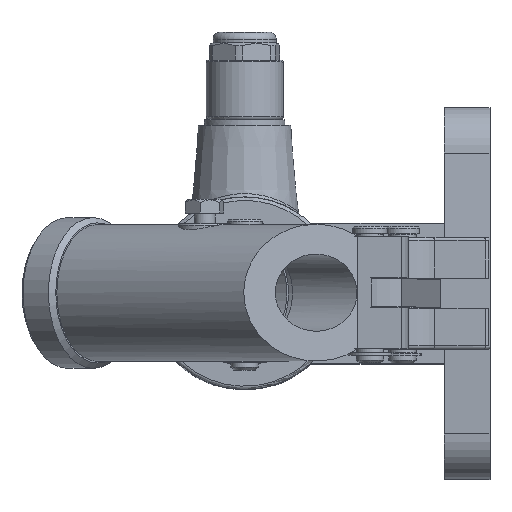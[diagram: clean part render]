
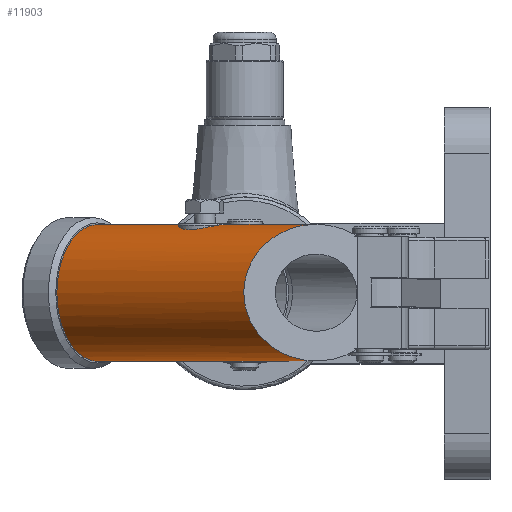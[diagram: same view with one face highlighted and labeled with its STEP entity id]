
A CAD part, top view. The second image highlights one B-rep face of the part: STEP entity #11903.
In plain terms, the highlighted cylindrical face has radius 19.5 mm (diameter 39 mm), a partial arc.
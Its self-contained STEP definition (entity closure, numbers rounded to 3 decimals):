
#26=ELLIPSE('',#12578,20.751,19.5);
#27=ELLIPSE('',#12589,20.751,19.5);
#28=ELLIPSE('',#12597,20.751,19.5);
#29=ELLIPSE('',#12599,22.517,19.5);
#30=ELLIPSE('',#12600,20.751,19.5);
#123=B_SPLINE_CURVE_WITH_KNOTS('',3,(#17699,#17700,#17701,#17702,#17703,
#17704),.UNSPECIFIED.,.F.,.F.,(4,1,1,4),(0.039,0.043,
0.045,0.047),.UNSPECIFIED.);
#124=B_SPLINE_CURVE_WITH_KNOTS('',3,(#17706,#17707,#17708,#17709,#17710),
 .UNSPECIFIED.,.F.,.F.,(4,1,4),(0.032,0.036,0.039),
 .UNSPECIFIED.);
#125=B_SPLINE_CURVE_WITH_KNOTS('',3,(#17712,#17713,#17714,#17715,#17716,
#17717,#17718),.UNSPECIFIED.,.F.,.F.,(4,1,1,1,4),(0.015,0.019,
0.024,0.028,0.032),.UNSPECIFIED.);
#126=B_SPLINE_CURVE_WITH_KNOTS('',3,(#17720,#17721,#17722,#17723,#17724),
 .UNSPECIFIED.,.F.,.F.,(4,1,4),(0.009,0.012,0.015),
 .UNSPECIFIED.);
#127=B_SPLINE_CURVE_WITH_KNOTS('',3,(#17726,#17727,#17728,#17729,#17730),
 .UNSPECIFIED.,.F.,.F.,(4,1,4),(0.,0.004,0.009),
 .UNSPECIFIED.);
#374=LINE('',#17623,#889);
#375=LINE('',#17625,#890);
#387=LINE('',#17659,#902);
#399=LINE('',#17692,#914);
#400=LINE('',#17696,#915);
#401=LINE('',#17731,#916);
#402=LINE('',#17735,#917);
#889=VECTOR('',#13910,1000.);
#890=VECTOR('',#13911,1000.);
#902=VECTOR('',#13947,1000.);
#914=VECTOR('',#13981,1000.);
#915=VECTOR('',#13984,1000.);
#916=VECTOR('',#13987,1000.);
#917=VECTOR('',#13990,1000.);
#1999=ORIENTED_EDGE('',*,*,#4231,.F.);
#2000=ORIENTED_EDGE('',*,*,#4245,.T.);
#2001=ORIENTED_EDGE('',*,*,#4246,.T.);
#2002=ORIENTED_EDGE('',*,*,#4247,.T.);
#2003=ORIENTED_EDGE('',*,*,#4248,.F.);
#2004=ORIENTED_EDGE('',*,*,#4249,.T.);
#2005=ORIENTED_EDGE('',*,*,#4213,.F.);
#2006=ORIENTED_EDGE('',*,*,#4250,.F.);
#2007=ORIENTED_EDGE('',*,*,#4251,.F.);
#2008=ORIENTED_EDGE('',*,*,#4252,.F.);
#2009=ORIENTED_EDGE('',*,*,#4253,.F.);
#2010=ORIENTED_EDGE('',*,*,#4254,.F.);
#2011=ORIENTED_EDGE('',*,*,#4212,.F.);
#2012=ORIENTED_EDGE('',*,*,#4220,.F.);
#2013=ORIENTED_EDGE('',*,*,#4255,.T.);
#2014=ORIENTED_EDGE('',*,*,#4256,.T.);
#2015=ORIENTED_EDGE('',*,*,#4257,.T.);
#2016=ORIENTED_EDGE('',*,*,#4233,.F.);
#4212=EDGE_CURVE('',#5382,#5383,#374,.F.);
#4213=EDGE_CURVE('',#5383,#5384,#375,.F.);
#4220=EDGE_CURVE('',#5387,#5382,#26,.T.);
#4231=EDGE_CURVE('',#5393,#5394,#387,.T.);
#4233=EDGE_CURVE('',#5394,#5395,#27,.T.);
#4245=EDGE_CURVE('',#5393,#5403,#28,.T.);
#4246=EDGE_CURVE('',#5403,#5404,#399,.F.);
#4247=EDGE_CURVE('',#5404,#5405,#29,.T.);
#4248=EDGE_CURVE('',#5406,#5405,#400,.F.);
#4249=EDGE_CURVE('',#5406,#5384,#30,.T.);
#4250=EDGE_CURVE('',#5407,#5383,#123,.T.);
#4251=EDGE_CURVE('',#5408,#5407,#124,.T.);
#4252=EDGE_CURVE('',#5409,#5408,#125,.T.);
#4253=EDGE_CURVE('',#5410,#5409,#126,.T.);
#4254=EDGE_CURVE('',#5383,#5410,#127,.T.);
#4255=EDGE_CURVE('',#5387,#5411,#401,.T.);
#4256=EDGE_CURVE('',#5411,#5412,#6201,.T.);
#4257=EDGE_CURVE('',#5412,#5395,#402,.F.);
#5382=VERTEX_POINT('',#17622);
#5383=VERTEX_POINT('',#17624);
#5384=VERTEX_POINT('',#17626);
#5387=VERTEX_POINT('',#17636);
#5393=VERTEX_POINT('',#17658);
#5394=VERTEX_POINT('',#17660);
#5395=VERTEX_POINT('',#17664);
#5403=VERTEX_POINT('',#17689);
#5404=VERTEX_POINT('',#17693);
#5405=VERTEX_POINT('',#17695);
#5406=VERTEX_POINT('',#17697);
#5407=VERTEX_POINT('',#17705);
#5408=VERTEX_POINT('',#17711);
#5409=VERTEX_POINT('',#17719);
#5410=VERTEX_POINT('',#17725);
#5411=VERTEX_POINT('',#17732);
#5412=VERTEX_POINT('',#17734);
#6201=CIRCLE('',#12601,19.5);
#6789=EDGE_LOOP('',(#1999,#2000,#2001,#2002,#2003,#2004,#2005,#2006,#2007,
#2008,#2009,#2010,#2011,#2012,#2013,#2014,#2015,#2016));
#7651=FACE_BOUND('',#6789,.T.);
#8395=CYLINDRICAL_SURFACE('',#12598,19.5);
#11903=ADVANCED_FACE('',(#7651),#8395,.T.);
#12578=AXIS2_PLACEMENT_3D('',#17637,#13921,#13922);
#12589=AXIS2_PLACEMENT_3D('',#17663,#13951,#13952);
#12597=AXIS2_PLACEMENT_3D('',#17690,#13977,#13978);
#12598=AXIS2_PLACEMENT_3D('',#17691,#13979,#13980);
#12599=AXIS2_PLACEMENT_3D('',#17694,#13982,#13983);
#12600=AXIS2_PLACEMENT_3D('',#17698,#13985,#13986);
#12601=AXIS2_PLACEMENT_3D('',#17733,#13988,#13989);
#13910=DIRECTION('',(-0.804,0.,-0.595));
#13911=DIRECTION('',(-0.804,0.,-0.595));
#13921=DIRECTION('',(0.552,0.,0.834));
#13922=DIRECTION('',(-0.834,0.,0.552));
#13947=DIRECTION('',(-0.804,0.,-0.595));
#13951=DIRECTION('',(0.552,0.,0.834));
#13952=DIRECTION('',(-0.834,0.,0.552));
#13977=DIRECTION('',(0.959,0.,0.284));
#13978=DIRECTION('',(0.284,0.,-0.959));
#13979=DIRECTION('',(-0.804,0.,-0.595));
#13980=DIRECTION('',(0.595,0.,-0.804));
#13981=DIRECTION('',(-0.804,0.,-0.595));
#13982=DIRECTION('',(-0.399,0.,-0.917));
#13983=DIRECTION('',(-0.917,0.,0.399));
#13984=DIRECTION('',(-0.804,0.,-0.595));
#13985=DIRECTION('',(0.959,0.,0.284));
#13986=DIRECTION('',(0.284,0.,-0.959));
#13987=DIRECTION('',(-0.804,0.,-0.595));
#13988=DIRECTION('',(0.804,0.,0.595));
#13989=DIRECTION('',(-0.595,0.,0.804));
#13990=DIRECTION('',(-0.804,0.,-0.595));
#17622=CARTESIAN_POINT('',(-36.577,18.,187.319));
#17623=CARTESIAN_POINT('',(30.052,18.,236.601));
#17624=CARTESIAN_POINT('',(-6.931,18.,209.247));
#17625=CARTESIAN_POINT('',(30.052,18.,236.601));
#17626=CARTESIAN_POINT('',(4.631,18.,217.798));
#17636=CARTESIAN_POINT('',(-27.261,7.5,181.15));
#17637=CARTESIAN_POINT('',(-43.232,0.,191.726));
#17658=CARTESIAN_POINT('',(4.631,-18.,217.798));
#17659=CARTESIAN_POINT('',(30.052,-18.,236.601));
#17660=CARTESIAN_POINT('',(-36.577,-18.,187.319));
#17663=CARTESIAN_POINT('',(-43.232,0.,191.726));
#17664=CARTESIAN_POINT('',(-27.261,-7.5,181.15));
#17689=CARTESIAN_POINT('',(5.732,-16.,214.077));
#17690=CARTESIAN_POINT('',(2.365,0.,225.451));
#17691=CARTESIAN_POINT('',(25.592,0.,242.631));
#17692=CARTESIAN_POINT('',(32.22,-16.,233.669));
#17693=CARTESIAN_POINT('',(32.22,-16.,233.669));
#17694=CARTESIAN_POINT('',(20.418,0.,238.804));
#17695=CARTESIAN_POINT('',(32.22,16.,233.669));
#17696=CARTESIAN_POINT('',(32.22,16.,233.669));
#17697=CARTESIAN_POINT('',(5.732,16.,214.077));
#17698=CARTESIAN_POINT('',(2.365,0.,225.451));
#17699=CARTESIAN_POINT('',(-4.054,19.25,216.832));
#17700=CARTESIAN_POINT('',(-3.758,19.04,215.435));
#17701=CARTESIAN_POINT('',(-3.926,18.556,213.231));
#17702=CARTESIAN_POINT('',(-5.325,18.089,210.695));
#17703=CARTESIAN_POINT('',(-6.344,18.,209.681));
#17704=CARTESIAN_POINT('',(-6.931,18.,209.247));
#17705=CARTESIAN_POINT('',(-4.054,19.25,216.832));
#17706=CARTESIAN_POINT('',(-7.756,19.25,221.837));
#17707=CARTESIAN_POINT('',(-6.82,19.407,221.318));
#17708=CARTESIAN_POINT('',(-5.175,19.593,219.879));
#17709=CARTESIAN_POINT('',(-4.274,19.406,217.87));
#17710=CARTESIAN_POINT('',(-4.054,19.25,216.832));
#17711=CARTESIAN_POINT('',(-7.756,19.25,221.837));
#17712=CARTESIAN_POINT('',(-18.728,19.25,213.721));
#17713=CARTESIAN_POINT('',(-19.026,19.039,215.127));
#17714=CARTESIAN_POINT('',(-18.805,18.392,218.04));
#17715=CARTESIAN_POINT('',(-16.115,17.804,221.651));
#17716=CARTESIAN_POINT('',(-11.864,18.392,223.177));
#17717=CARTESIAN_POINT('',(-9.015,19.038,222.534));
#17718=CARTESIAN_POINT('',(-7.756,19.25,221.837));
#17719=CARTESIAN_POINT('',(-18.728,19.25,213.721));
#17720=CARTESIAN_POINT('',(-15.026,19.25,208.716));
#17721=CARTESIAN_POINT('',(-15.95,19.405,209.228));
#17722=CARTESIAN_POINT('',(-17.607,19.594,210.673));
#17723=CARTESIAN_POINT('',(-18.507,19.407,212.677));
#17724=CARTESIAN_POINT('',(-18.728,19.25,213.721));
#17725=CARTESIAN_POINT('',(-15.026,19.25,208.716));
#17726=CARTESIAN_POINT('',(-6.931,18.,209.247));
#17727=CARTESIAN_POINT('',(-8.106,18.,208.378));
#17728=CARTESIAN_POINT('',(-10.899,18.39,207.38));
#17729=CARTESIAN_POINT('',(-13.783,19.041,208.027));
#17730=CARTESIAN_POINT('',(-15.026,19.25,208.716));
#17731=CARTESIAN_POINT('',(36.296,7.5,228.159));
#17732=CARTESIAN_POINT('',(-31.239,7.5,178.208));
#17733=CARTESIAN_POINT('',(-41.942,0.,192.68));
#17734=CARTESIAN_POINT('',(-31.239,-7.5,178.208));
#17735=CARTESIAN_POINT('',(36.296,-7.5,228.159));
